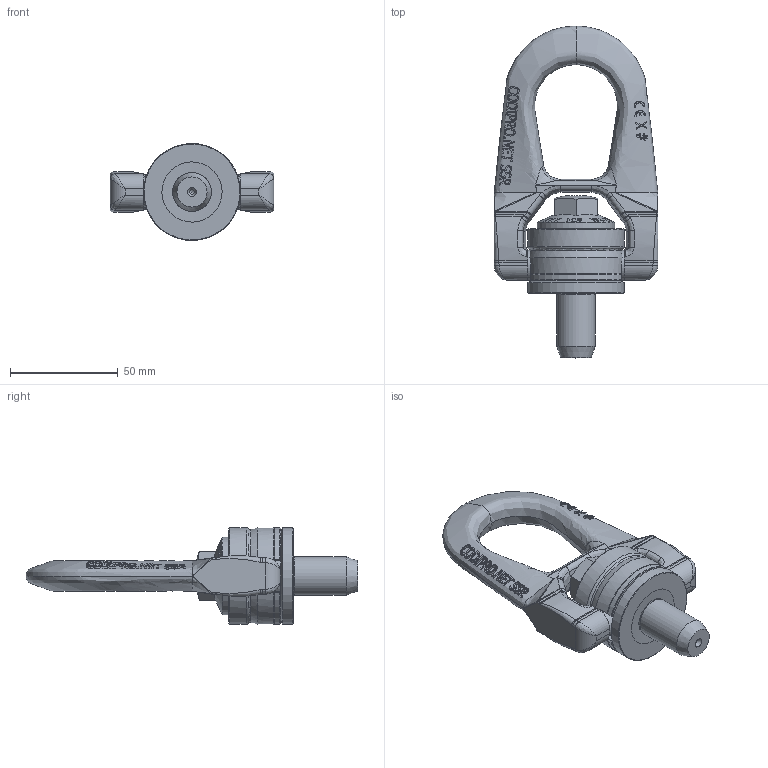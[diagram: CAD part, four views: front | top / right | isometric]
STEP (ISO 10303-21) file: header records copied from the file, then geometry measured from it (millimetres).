
FILE_DESCRIPTION(/* description */ (''),/* implementation_level */ '2;1');
FILE_NAME(/* name */ 'W:\CODIPRO\DOCUMENTS\Plans A NE PAS DIFFUSER !!!\Fichiers STEP\Gamme 2018\Produits NON GRADUP\SS DSR\SS DSR M18.stp',/* time_stamp */ '2017-09-26T13:08:54+02:00',/* author */ ('rklenes'),/* organization */ (''),/* preprocessor_version */ 'ST-DEVELOPER v16.5',/* originating_system */ 'Autodesk Inventor 2017',/* authorisation */ '');
FILE_SCHEMA (('AUTOMOTIVE_DESIGN { 1 0 10303 214 3 1 1 }'));
Products named in the file (5): SS DSR M18; DRM_AF2B-1; DRB_B2B; DRE_D2M18A; DRA_M18X57
Assembly tree (4 placements, depth 2):
  SS DSR M18
    DRM_AF2B-1
    DRB_B2B
    DRE_D2M18A
    DRA_M18X57
Bounding box: 76 x 154.25 x 45 mm (x, y, z)
Volume: 114953.3 mm3; surface area: 36964.3 mm2
Topology: 4 solids, 4 shells, 792 faces, 2064 edges, 1313 vertices
Faces by surface type: plane 360, bspline 294, cylinder 81, cone 45, torus 11, sphere 1
Full cylindrical faces by diameter (mm): 2 x1, 14 x2, 18 x3, 18.2 x1, 22.6 x2, 23 x2, 32 x1, 36 x1, 45 x2
Entity records: 43340 total; most frequent: CARTESIAN_POINT 26088, ORIENTED_EDGE 4016, DIRECTION 2791, EDGE_CURVE 2008, VERTEX_POINT 1305, AXIS2_PLACEMENT_3D 1045, EDGE_LOOP 879, FACE_OUTER_BOUND 792
